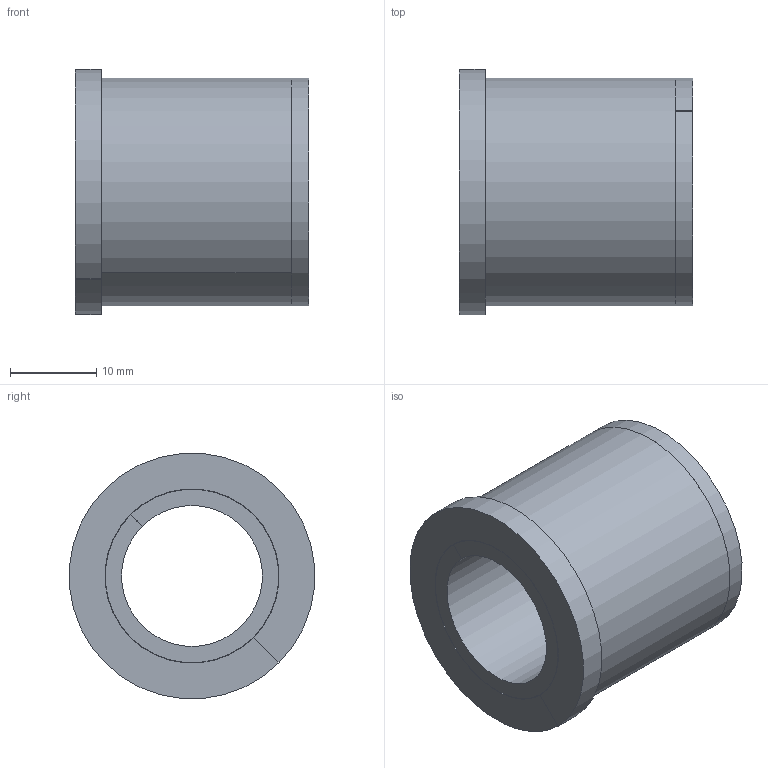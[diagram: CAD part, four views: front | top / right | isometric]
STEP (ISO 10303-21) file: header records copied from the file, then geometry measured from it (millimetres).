
FILE_DESCRIPTION(('Creo Elements/Direct Modeling STEP Export'),'2;1');
FILE_NAME('H17-0012-CL907-00_G28-20RS.stp','2023-06-09T13:35:26',(''),(''),'Creo Elements/Direct Modeling STEP processor for AP214 (Solid Model)','Creo Elements/Direct Modeling 20.3B 05-Dec-2020 (C) Parametric Technology GmbH','');
FILE_SCHEMA(('AUTOMOTIVE_DESIGN { 1 0 10303 214 1 1 1 1 }'));
Length unit declared in the file: millimetre
Products named in the file (3): G28-20BRS; G28-20ARS; G28-20RS
Assembly tree (2 placements, depth 2):
  G28-20RS
    G28-20ARS
    G28-20BRS
Bounding box: 27 x 28.39 x 28.39 mm (x, y, z)
Volume: 9436.2 mm3; surface area: 8412.8 mm2
Topology: 2 solids, 2 shells, 16 faces, 36 edges, 24 vertices
Faces by surface type: plane 10, cylinder 6
Full cylindrical faces by diameter (mm): 20.1 x1, 20.2 x1, 26.5 x2, 28.5 x1
Entity records: 527 total; most frequent: DIRECTION 86, CARTESIAN_POINT 79, ORIENTED_EDGE 72, EDGE_CURVE 36, AXIS2_PLACEMENT_3D 31, VECTOR 24, LINE 24, VERTEX_POINT 24
